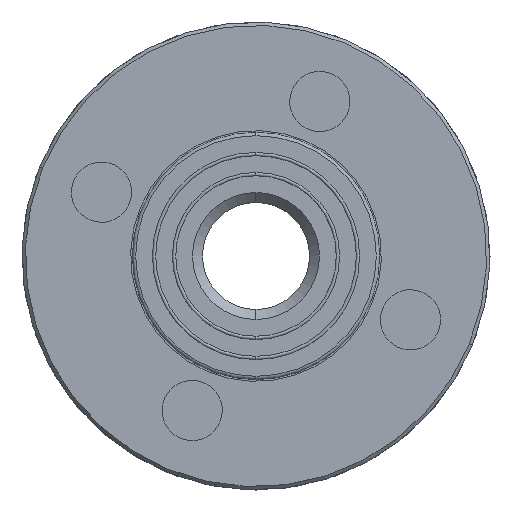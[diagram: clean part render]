
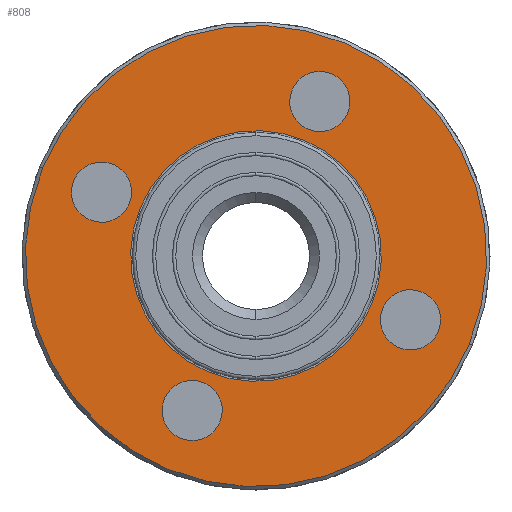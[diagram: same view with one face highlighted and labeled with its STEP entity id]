
A CAD part, left-side view. The second image highlights one B-rep face of the part: STEP entity #808.
In plain terms, the highlighted planar face has unit normal (-1, 0, 0) as drawn and (1, 0, 0) by its records, which use the part's own axes.
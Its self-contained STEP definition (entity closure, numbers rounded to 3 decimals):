
#6 = ORIENTED_EDGE ( 'NONE', *, *, #236, .T. ) ;
#9 = VERTEX_POINT ( 'NONE', #1521 ) ;
#18 = FACE_BOUND ( 'NONE', #704, .T. ) ;
#36 = VERTEX_POINT ( 'NONE', #2191 ) ;
#80 = CIRCLE ( 'NONE', #157, 69. ) ;
#127 = EDGE_CURVE ( 'NONE', #1051, #1933, #2073, .T. ) ;
#131 = CARTESIAN_POINT ( 'NONE',  ( 15., 0., 50. ) ) ;
#134 = EDGE_CURVE ( 'NONE', #2346, #1789, #80, .T. ) ;
#146 = AXIS2_PLACEMENT_3D ( 'NONE', #289, #1848, #279 ) ;
#150 = DIRECTION ( 'NONE',  ( -1., 0., 0. ) ) ;
#156 = FACE_BOUND ( 'NONE', #2106, .T. ) ;
#157 = AXIS2_PLACEMENT_3D ( 'NONE', #455, #683, #653 ) ;
#199 = CARTESIAN_POINT ( 'NONE',  ( 15., 0., 0. ) ) ;
#236 = EDGE_CURVE ( 'NONE', #1309, #2700, #1565, .T. ) ;
#251 = CARTESIAN_POINT ( 'NONE',  ( 15., 0., 69. ) ) ;
#258 = CARTESIAN_POINT ( 'NONE',  ( 15., 0., 0. ) ) ;
#279 = DIRECTION ( 'NONE',  ( 0., 0., 1. ) ) ;
#289 = CARTESIAN_POINT ( 'NONE',  ( 15., 0., -50. ) ) ;
#300 = CARTESIAN_POINT ( 'NONE',  ( 15., 0., 59. ) ) ;
#363 = AXIS2_PLACEMENT_3D ( 'NONE', #479, #490, #2041 ) ;
#368 = DIRECTION ( 'NONE',  ( 0., 0., 1. ) ) ;
#455 = CARTESIAN_POINT ( 'NONE',  ( 15., 0., 0. ) ) ;
#456 = AXIS2_PLACEMENT_3D ( 'NONE', #1297, #2861, #1518 ) ;
#479 = CARTESIAN_POINT ( 'NONE',  ( 15., 0., 50. ) ) ;
#490 = DIRECTION ( 'NONE',  ( -1., 0., 0. ) ) ;
#637 = ORIENTED_EDGE ( 'NONE', *, *, #2115, .T. ) ;
#651 = CIRCLE ( 'NONE', #2070, 9. ) ;
#653 = DIRECTION ( 'NONE',  ( 0., 0., 1. ) ) ;
#663 = VERTEX_POINT ( 'NONE', #1956 ) ;
#683 = DIRECTION ( 'NONE',  ( -1., 0., 0. ) ) ;
#687 = CIRCLE ( 'NONE', #2729, 69. ) ;
#704 = EDGE_LOOP ( 'NONE', ( #1095, #1394 ) ) ;
#748 = CARTESIAN_POINT ( 'NONE',  ( 15., 0., 37.5 ) ) ;
#756 = CARTESIAN_POINT ( 'NONE',  ( 15., 50., -9. ) ) ;
#773 = DIRECTION ( 'NONE',  ( 0., 0., 1. ) ) ;
#808 = ADVANCED_FACE ( 'NONE', ( #827, #18, #156, #2257, #2015, #2373 ), #1517, .F. ) ;
#827 = FACE_BOUND ( 'NONE', #2163, .T. ) ;
#870 = CARTESIAN_POINT ( 'NONE',  ( 15., 0., 41. ) ) ;
#903 = CARTESIAN_POINT ( 'NONE',  ( 15., 0., -50. ) ) ;
#907 = DIRECTION ( 'NONE',  ( 0., 0., 1. ) ) ;
#936 = ORIENTED_EDGE ( 'NONE', *, *, #1226, .T. ) ;
#953 = CIRCLE ( 'NONE', #2600, 9. ) ;
#1041 = AXIS2_PLACEMENT_3D ( 'NONE', #1368, #1379, #1343 ) ;
#1051 = VERTEX_POINT ( 'NONE', #1810 ) ;
#1058 = CARTESIAN_POINT ( 'NONE',  ( 15., 0., -41. ) ) ;
#1095 = ORIENTED_EDGE ( 'NONE', *, *, #2416, .T. ) ;
#1130 = DIRECTION ( 'NONE',  ( -1., 0., 0. ) ) ;
#1174 = AXIS2_PLACEMENT_3D ( 'NONE', #1613, #2488, #907 ) ;
#1185 = EDGE_CURVE ( 'NONE', #1190, #663, #953, .T. ) ;
#1190 = VERTEX_POINT ( 'NONE', #756 ) ;
#1226 = EDGE_CURVE ( 'NONE', #2749, #2418, #1248, .T. ) ;
#1232 = DIRECTION ( 'NONE',  ( -1., 0., 0. ) ) ;
#1247 = EDGE_LOOP ( 'NONE', ( #2072, #1880 ) ) ;
#1248 = CIRCLE ( 'NONE', #2447, 9. ) ;
#1254 = DIRECTION ( 'NONE',  ( -1., 0., 0. ) ) ;
#1297 = CARTESIAN_POINT ( 'NONE',  ( 15., -50., 0. ) ) ;
#1302 = ORIENTED_EDGE ( 'NONE', *, *, #1828, .T. ) ;
#1309 = VERTEX_POINT ( 'NONE', #870 ) ;
#1319 = EDGE_LOOP ( 'NONE', ( #1302, #1664 ) ) ;
#1343 = DIRECTION ( 'NONE',  ( 0., 0., 1. ) ) ;
#1368 = CARTESIAN_POINT ( 'NONE',  ( 15., 69., 0. ) ) ;
#1379 = DIRECTION ( 'NONE',  ( -1., 0., 0. ) ) ;
#1394 = ORIENTED_EDGE ( 'NONE', *, *, #1547, .T. ) ;
#1418 = AXIS2_PLACEMENT_3D ( 'NONE', #1506, #150, #368 ) ;
#1451 = CARTESIAN_POINT ( 'NONE',  ( 15., 50., 0. ) ) ;
#1479 = AXIS2_PLACEMENT_3D ( 'NONE', #199, #2661, #1756 ) ;
#1498 = ORIENTED_EDGE ( 'NONE', *, *, #1185, .T. ) ;
#1506 = CARTESIAN_POINT ( 'NONE',  ( 15., -50., 0. ) ) ;
#1517 = PLANE ( 'NONE',  #1041 ) ;
#1518 = DIRECTION ( 'NONE',  ( 0., 0., 1. ) ) ;
#1521 = CARTESIAN_POINT ( 'NONE',  ( 15., -50., -9. ) ) ;
#1534 = CIRCLE ( 'NONE', #1174, 37.5 ) ;
#1547 = EDGE_CURVE ( 'NONE', #9, #36, #1975, .T. ) ;
#1565 = CIRCLE ( 'NONE', #363, 9. ) ;
#1613 = CARTESIAN_POINT ( 'NONE',  ( 15., 0., 0. ) ) ;
#1664 = ORIENTED_EDGE ( 'NONE', *, *, #127, .T. ) ;
#1683 = CARTESIAN_POINT ( 'NONE',  ( 15., 50., 0. ) ) ;
#1756 = DIRECTION ( 'NONE',  ( 0., 0., 1. ) ) ;
#1771 = DIRECTION ( 'NONE',  ( 0., 0., 1. ) ) ;
#1789 = VERTEX_POINT ( 'NONE', #251 ) ;
#1810 = CARTESIAN_POINT ( 'NONE',  ( 15., 0., -37.5 ) ) ;
#1814 = DIRECTION ( 'NONE',  ( -1., 0., 0. ) ) ;
#1828 = EDGE_CURVE ( 'NONE', #1933, #1051, #1534, .T. ) ;
#1848 = DIRECTION ( 'NONE',  ( -1., 0., 0. ) ) ;
#1880 = ORIENTED_EDGE ( 'NONE', *, *, #134, .F. ) ;
#1928 = DIRECTION ( 'NONE',  ( 0., 0., 1. ) ) ;
#1930 = ORIENTED_EDGE ( 'NONE', *, *, #2145, .T. ) ;
#1933 = VERTEX_POINT ( 'NONE', #748 ) ;
#1956 = CARTESIAN_POINT ( 'NONE',  ( 15., 50., 9. ) ) ;
#1975 = CIRCLE ( 'NONE', #456, 9. ) ;
#2015 = FACE_OUTER_BOUND ( 'NONE', #1247, .T. ) ;
#2041 = DIRECTION ( 'NONE',  ( 0., 0., 1. ) ) ;
#2070 = AXIS2_PLACEMENT_3D ( 'NONE', #1683, #1254, #1928 ) ;
#2072 = ORIENTED_EDGE ( 'NONE', *, *, #2542, .F. ) ;
#2073 = CIRCLE ( 'NONE', #1479, 37.5 ) ;
#2102 = EDGE_LOOP ( 'NONE', ( #637, #1498 ) ) ;
#2106 = EDGE_LOOP ( 'NONE', ( #1930, #6 ) ) ;
#2115 = EDGE_CURVE ( 'NONE', #663, #1190, #651, .T. ) ;
#2126 = CIRCLE ( 'NONE', #1418, 9. ) ;
#2140 = DIRECTION ( 'NONE',  ( -1., 0., 0. ) ) ;
#2145 = EDGE_CURVE ( 'NONE', #2700, #1309, #2762, .T. ) ;
#2163 = EDGE_LOOP ( 'NONE', ( #2758, #936 ) ) ;
#2191 = CARTESIAN_POINT ( 'NONE',  ( 15., -50., 9. ) ) ;
#2257 = FACE_BOUND ( 'NONE', #2102, .T. ) ;
#2319 = DIRECTION ( 'NONE',  ( 0., 0., 1. ) ) ;
#2346 = VERTEX_POINT ( 'NONE', #2403 ) ;
#2373 = FACE_BOUND ( 'NONE', #1319, .T. ) ;
#2401 = CIRCLE ( 'NONE', #146, 9. ) ;
#2403 = CARTESIAN_POINT ( 'NONE',  ( 15., 0., -69. ) ) ;
#2416 = EDGE_CURVE ( 'NONE', #36, #9, #2126, .T. ) ;
#2418 = VERTEX_POINT ( 'NONE', #1058 ) ;
#2447 = AXIS2_PLACEMENT_3D ( 'NONE', #903, #1130, #1771 ) ;
#2487 = DIRECTION ( 'NONE',  ( 0., 0., 1. ) ) ;
#2488 = DIRECTION ( 'NONE',  ( -1., 0., 0. ) ) ;
#2533 = CARTESIAN_POINT ( 'NONE',  ( 15., 0., -59. ) ) ;
#2542 = EDGE_CURVE ( 'NONE', #1789, #2346, #687, .T. ) ;
#2600 = AXIS2_PLACEMENT_3D ( 'NONE', #1451, #1232, #2319 ) ;
#2661 = DIRECTION ( 'NONE',  ( -1., 0., 0. ) ) ;
#2696 = EDGE_CURVE ( 'NONE', #2418, #2749, #2401, .T. ) ;
#2700 = VERTEX_POINT ( 'NONE', #300 ) ;
#2729 = AXIS2_PLACEMENT_3D ( 'NONE', #258, #1814, #2487 ) ;
#2749 = VERTEX_POINT ( 'NONE', #2533 ) ;
#2758 = ORIENTED_EDGE ( 'NONE', *, *, #2696, .T. ) ;
#2762 = CIRCLE ( 'NONE', #2869, 9. ) ;
#2861 = DIRECTION ( 'NONE',  ( -1., 0., 0. ) ) ;
#2869 = AXIS2_PLACEMENT_3D ( 'NONE', #131, #2140, #773 ) ;
